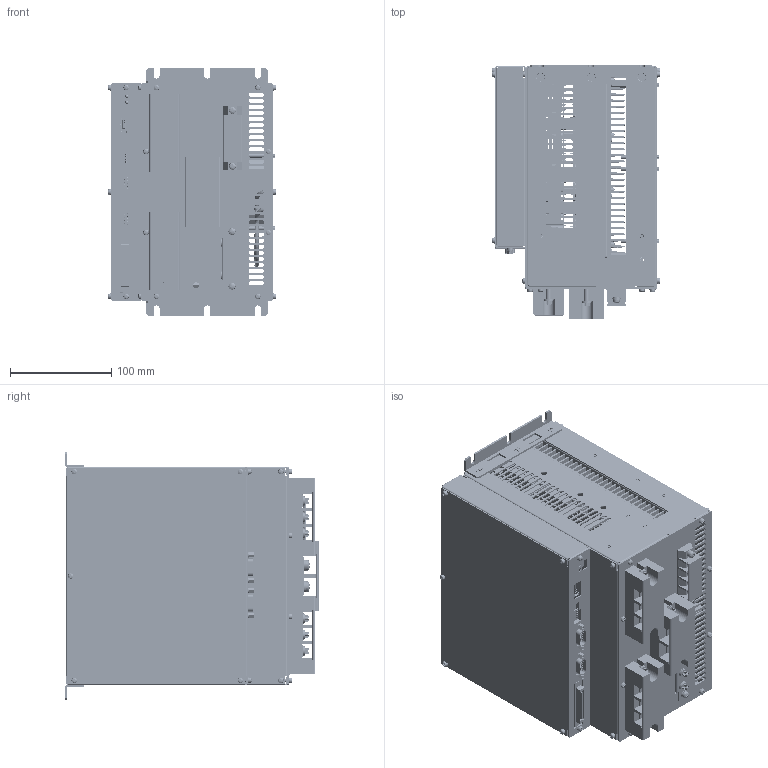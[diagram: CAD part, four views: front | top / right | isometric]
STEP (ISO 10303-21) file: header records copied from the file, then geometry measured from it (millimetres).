
FILE_DESCRIPTION(('HOOPS Exchange Step'),'2;1');
FILE_NAME('/tmp/50f1edadfee845c950d61297abe468da20230331-1-1a8c3fp.X_T.step','2023-03-31T00:21:03+00:00',('root'),('Unknown organisation'),'HOOPS Exchange 2021.0','HOOPS Exchange','Unknown authorisation');
FILE_SCHEMA( ('AUTOMOTIVE_DESIGN { 1 0 10303 214 1 1 1 1 }') );
Length unit declared in the file: millimetre
Products named in the file (1): 50f1edadfee845c950d61297abe468da20230331-1-1a8c3fp
Bounding box: 166.33 x 250.5 x 245 mm (x, y, z)
Volume: 1805538.3 mm3; surface area: 1720824.6 mm2
Topology: 1576 solids, 2721 shells, 20382 faces, 58460 edges, 42660 vertices
Faces by surface type: plane 16549, cylinder 3428, bspline 353, sphere 28, torus 10, cone 8, extrusion 6
Full cylindrical faces by diameter (mm): 0.5 x36, 0.8 x121, 0.9 x1, 1 x18, 1.2 x19, 1.4 x10, 1.6 x4, 1.7 x2, 2 x12, 2.2 x54, 2.5 x2, 2.8 x8, 3 x266, 3.1 x6, 3.15 x2, 3.2 x37, 3.5 x78, 3.6 x36, 3.8 x4, 4 x138, 4.3 x26, 4.5 x20, 5 x66, 5.2 x4, 5.5 x161, 5.8 x12, 6 x118, 7 x46, 8 x44, 8.3 x8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
Entity records: 709140 total; most frequent: CARTESIAN_POINT 172022, ORIENTED_EDGE 108677, DIRECTION 101522, EDGE_CURVE 58170, VECTOR 42778, LINE 42772, VERTEX_POINT 42182, AXIS2_PLACEMENT_3D 29372
